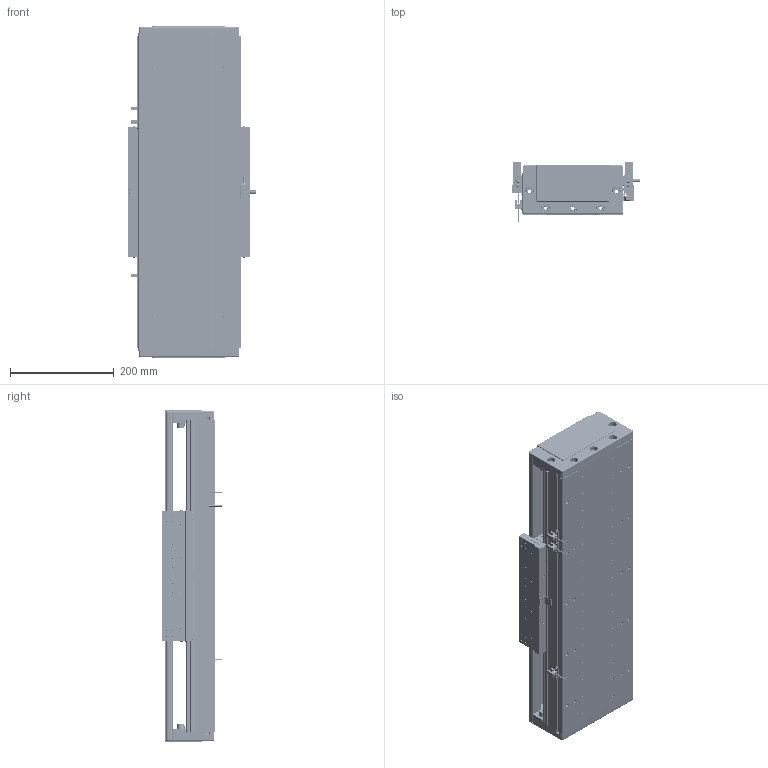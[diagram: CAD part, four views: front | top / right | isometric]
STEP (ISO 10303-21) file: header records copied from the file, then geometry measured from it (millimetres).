
FILE_DESCRIPTION (( 'STEP AP203' ), '1' );
FILE_NAME ('DA-C195-C3-T300-C010-0.2 眻盄萇儂.STEP', '2025-08-15T01:44:34', ( '' ), ( '' ), 'SwSTEP 2.0', 'SolidWorks 2019', '' );
FILE_SCHEMA (( 'CONFIG_CONTROL_DESIGN' ));
Length unit declared in the file: millimetre
Products named in the file (12): IU-CU195-L 菁釱絳寢; DA165-GYP-00 光电感应片(默认); IU-CU195-L-00 菁釱(L600); LMT黍杅芛; MS200 棠掑喜S315-T240; DA-C195-C3-T300-C010-0.2 眻盄萇儂; CU195-C3賑輸-俋楷; DA95-HXJ-00 遣喳砎蝶; DA195-DG-H-00  端盖（压铸镂空版）; 66156-0001-003-00 裔啣; PM-T45ㄗ侂狟ㄘ; 葩璃 DA95-GT-T-00
Assembly tree (20 placements, depth 3):
  DA-C195-C3-T300-C010-0.2 眻盄萇儂
    IU-CU195-L 菁釱絳寢
      IU-CU195-L-00 菁釱(L600)
      葩璃 DA95-GT-T-00  x4
    LMT黍杅芛
    MS200 棠掑喜S315-T240
    PM-T45ㄗ侂狟ㄘ  x3
    DA165-GYP-00 光电感应片(默认)
    DA195-DG-H-00  端盖（压铸镂空版）  x2
    DA95-HXJ-00 遣喳砎蝶  x4
    66156-0001-003-00 裔啣
    CU195-C3賑輸-俋楷
Bounding box: 248 x 115.6 x 640 mm (x, y, z)
Volume: 5546229.2 mm3; surface area: 1533730.9 mm2
Topology: 78 solids, 118 shells, 4955 faces, 12424 edges, 7507 vertices
Faces by surface type: cylinder 2032, plane 1589, bspline 710, cone 544, torus 44, sphere 36
Entity records: 131591 total; most frequent: CARTESIAN_POINT 39821, ORIENTED_EDGE 18934, DIRECTION 18574, EDGE_CURVE 9467, AXIS2_PLACEMENT_3D 6891, VERTEX_POINT 5937, LINE 4792, VECTOR 4792
